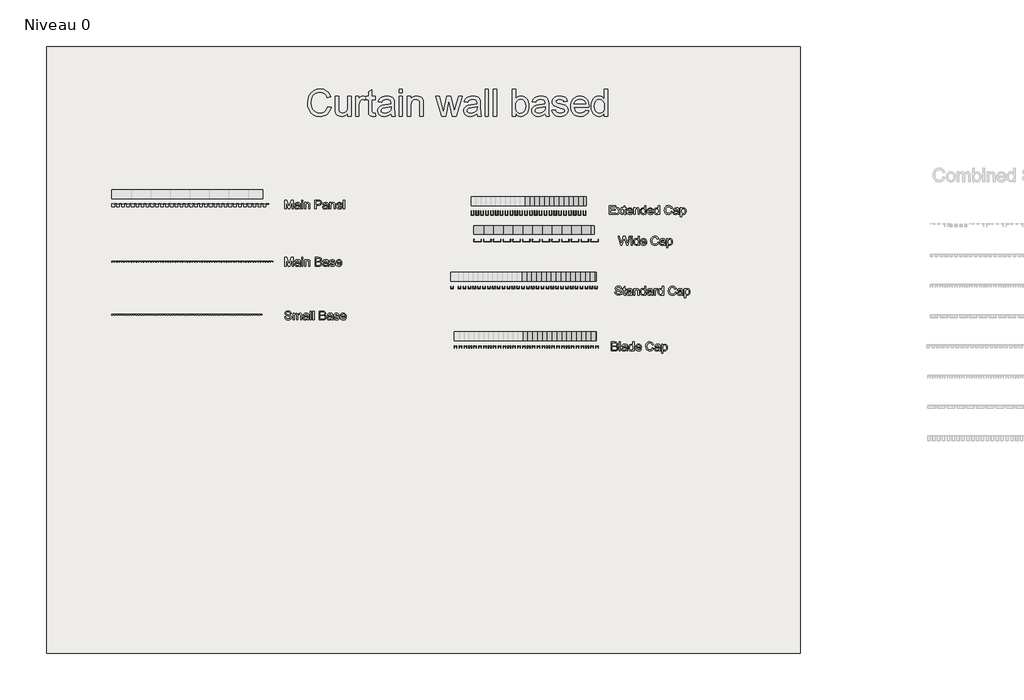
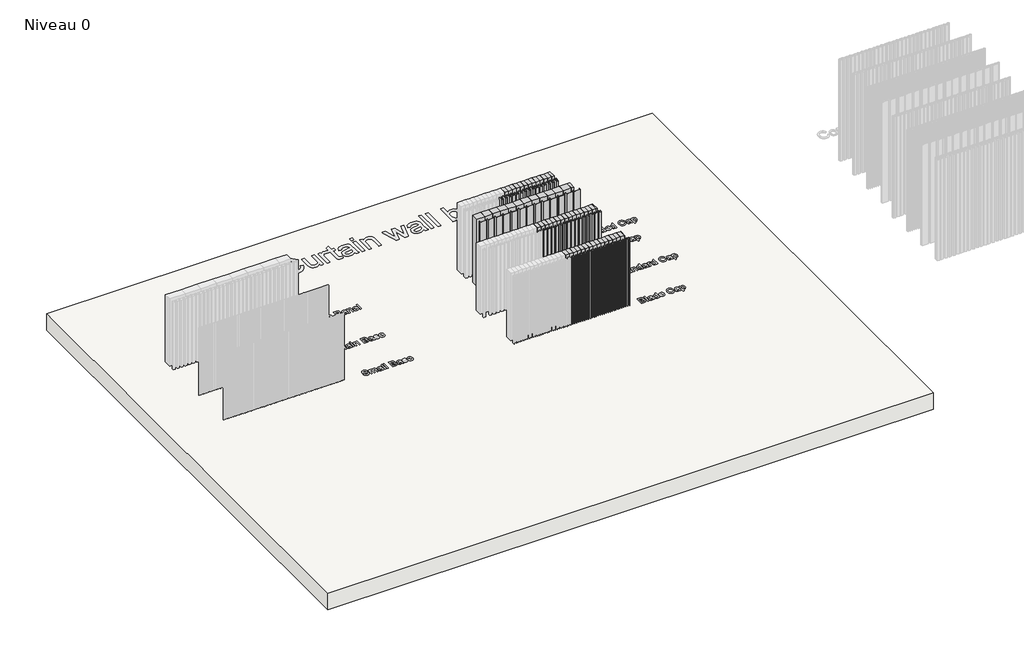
# One storey, part 2 of 25: 58 members, 58 plates, 1 slab.
"""IFC4 building model written with IfcOpenShell, lengths in millimetres."""

from ifc_helpers import new_model, si_unit, frame, origin, place, context, project, spatial, polyline, outline, extrude, transform, mapped, element, save
from components import meneau_rectangulaire_blade_cap_367a593c, meneau_rectangulaire_extended_cap_215ab1c6, meneau_rectangulaire_standard_cap_380d3cc9, meneau_rectangulaire_wide_cap_d8bd72df, meneau_rectangulaire_wide_cap_ee525d8e, vide_94d37051, vide_1ad6f549, vide_d45d4c5a, vide_6520434d, vide_a515af11, vide_65d77da9, vide_76a475b9

model = new_model("IFC4")

# Units and contexts
model_context = context("Model", 3, world=origin())
ifc_project = project(units=[si_unit("LENGTHUNIT", "METRE", prefix="MILLI")], contexts=[model_context])

# Site, building, storey
site = spatial("IfcSite", under=ifc_project)
building = spatial("IfcBuilding", under=site)
storey = spatial("IfcBuildingStorey", under=building, Name="Niveau 0", Elevation=0.0)

# Members
placement = place(None, origin())
meneau_rectangulaire_blade_cap_shape = meneau_rectangulaire_blade_cap_367a593c(model_context)
element("IfcMember", 1, ObjectType="Meneau rectangulaire : Blade Cap", at=placement, inside=storey, context=model_context, shape_type="MappedRepresentation", body=[
    mapped(meneau_rectangulaire_blade_cap_shape, transform((-7956.9983427, 3201.7575125, 0.0), x_axis=(1.0, 0.0, 0.0), y_axis=(0.0, -1.0, 0.0), z_axis=(0.0, 0.0, -1.0))),
])
element("IfcMember", 2, ObjectType="Meneau rectangulaire : Blade Cap", at=placement, inside=storey, context=model_context, shape_type="MappedRepresentation", body=[
    mapped(meneau_rectangulaire_blade_cap_shape, transform((-7901.9983427, 3201.7575125, 0.0), x_axis=(1.0, 0.0, 0.0), y_axis=(0.0, -1.0, 0.0), z_axis=(0.0, 0.0, -1.0))),
])
element("IfcMember", 3, ObjectType="Meneau rectangulaire : Blade Cap", at=placement, inside=storey, context=model_context, shape_type="MappedRepresentation", body=[
    mapped(meneau_rectangulaire_blade_cap_shape, transform((-7846.9983427, 3201.7575125, 0.0), x_axis=(1.0, 0.0, 0.0), y_axis=(0.0, -1.0, 0.0), z_axis=(0.0, 0.0, -1.0))),
])
element("IfcMember", 4, ObjectType="Meneau rectangulaire : Blade Cap", at=placement, inside=storey, context=model_context, shape_type="MappedRepresentation", body=[
    mapped(meneau_rectangulaire_blade_cap_shape, transform((-7791.9983427, 3201.7575125, 0.0), x_axis=(1.0, 0.0, 0.0), y_axis=(0.0, -1.0, 0.0), z_axis=(0.0, 0.0, -1.0))),
])
element("IfcMember", 5, ObjectType="Meneau rectangulaire : Blade Cap", at=placement, inside=storey, context=model_context, shape_type="MappedRepresentation", body=[
    mapped(meneau_rectangulaire_blade_cap_shape, transform((-7736.9983427, 3201.7575125, 0.0), x_axis=(1.0, 0.0, 0.0), y_axis=(0.0, -1.0, 0.0), z_axis=(0.0, 0.0, -1.0))),
])
element("IfcMember", 6, ObjectType="Meneau rectangulaire : Blade Cap", at=placement, inside=storey, context=model_context, shape_type="MappedRepresentation", body=[
    mapped(meneau_rectangulaire_blade_cap_shape, transform((-7681.9983427, 3201.7575125, 0.0), x_axis=(1.0, 0.0, 0.0), y_axis=(0.0, -1.0, 0.0), z_axis=(0.0, 0.0, -1.0))),
])
element("IfcMember", 7, ObjectType="Meneau rectangulaire : Blade Cap", at=placement, inside=storey, context=model_context, shape_type="MappedRepresentation", body=[
    mapped(meneau_rectangulaire_blade_cap_shape, transform((-7626.9983427, 3201.7575125, 0.0), x_axis=(1.0, 0.0, 0.0), y_axis=(0.0, -1.0, 0.0), z_axis=(0.0, 0.0, -1.0))),
])
element("IfcMember", 8, ObjectType="Meneau rectangulaire : Blade Cap", at=placement, inside=storey, context=model_context, shape_type="MappedRepresentation", body=[
    mapped(meneau_rectangulaire_blade_cap_shape, transform((-7571.9983427, 3201.7575125, 0.0), x_axis=(1.0, 0.0, 0.0), y_axis=(0.0, -1.0, 0.0), z_axis=(0.0, 0.0, -1.0))),
])
element("IfcMember", 9, ObjectType="Meneau rectangulaire : Blade Cap", at=placement, inside=storey, context=model_context, shape_type="MappedRepresentation", body=[
    mapped(meneau_rectangulaire_blade_cap_shape, transform((-7516.9983427, 3201.7575125, 0.0), x_axis=(1.0, 0.0, 0.0), y_axis=(0.0, -1.0, 0.0), z_axis=(0.0, 0.0, -1.0))),
])
element("IfcMember", 10, ObjectType="Meneau rectangulaire : Blade Cap", at=placement, inside=storey, context=model_context, shape_type="MappedRepresentation", body=[
    mapped(meneau_rectangulaire_blade_cap_shape, transform((-7461.9983427, 3201.7575125, 0.0), x_axis=(1.0, 0.0, 0.0), y_axis=(0.0, -1.0, 0.0), z_axis=(0.0, 0.0, -1.0))),
])
element("IfcMember", 11, ObjectType="Meneau rectangulaire : Blade Cap", at=placement, inside=storey, context=model_context, shape_type="MappedRepresentation", body=[
    mapped(meneau_rectangulaire_blade_cap_shape, transform((-7406.9983427, 3201.7575125, 0.0), x_axis=(1.0, 0.0, 0.0), y_axis=(0.0, -1.0, 0.0), z_axis=(0.0, 0.0, -1.0))),
])
element("IfcMember", 12, ObjectType="Meneau rectangulaire : Blade Cap", at=placement, inside=storey, context=model_context, shape_type="MappedRepresentation", body=[
    mapped(meneau_rectangulaire_blade_cap_shape, transform((-7351.9983427, 3201.7575125, 0.0), x_axis=(1.0, 0.0, 0.0), y_axis=(0.0, -1.0, 0.0), z_axis=(0.0, 0.0, -1.0))),
])
element("IfcMember", 13, ObjectType="Meneau rectangulaire : Blade Cap", at=placement, inside=storey, context=model_context, shape_type="MappedRepresentation", body=[
    mapped(meneau_rectangulaire_blade_cap_shape, transform((-7296.9983427, 3201.7575125, 0.0), x_axis=(1.0, 0.0, 0.0), y_axis=(0.0, -1.0, 0.0), z_axis=(0.0, 0.0, -1.0))),
])
element("IfcMember", 14, ObjectType="Meneau rectangulaire : Blade Cap", at=placement, inside=storey, context=model_context, shape_type="MappedRepresentation", body=[
    mapped(meneau_rectangulaire_blade_cap_shape, transform((-7241.9983427, 3201.7575125, 0.0), x_axis=(1.0, 0.0, 0.0), y_axis=(0.0, -1.0, 0.0), z_axis=(0.0, 0.0, -1.0))),
])
element("IfcMember", 15, ObjectType="Meneau rectangulaire : Blade Cap", at=placement, inside=storey, context=model_context, shape_type="MappedRepresentation", body=[
    mapped(meneau_rectangulaire_blade_cap_shape, transform((-7186.9983427, 3201.7575125, 0.0), x_axis=(1.0, 0.0, 0.0), y_axis=(0.0, -1.0, 0.0), z_axis=(0.0, 0.0, -1.0))),
])
meneau_rectangulaire_extended_cap_shape = meneau_rectangulaire_extended_cap_215ab1c6(model_context)
element("IfcMember", 16, ObjectType="Meneau rectangulaire : Extended Cap", at=placement, inside=storey, context=model_context, shape_type="MappedRepresentation", body=[
    mapped(meneau_rectangulaire_extended_cap_shape, transform((-8098.6900016, 4724.3413951, 0.0), x_axis=(1.0, 0.0, 0.0), y_axis=(0.0, -1.0, 0.0), z_axis=(0.0, 0.0, -1.0))),
])
element("IfcMember", 17, ObjectType="Meneau rectangulaire : Extended Cap", at=placement, inside=storey, context=model_context, shape_type="MappedRepresentation", body=[
    mapped(meneau_rectangulaire_extended_cap_shape, transform((-8043.6900016, 4724.3413951, 0.0), x_axis=(1.0, 0.0, 0.0), y_axis=(0.0, -1.0, 0.0), z_axis=(0.0, 0.0, -1.0))),
])
element("IfcMember", 18, ObjectType="Meneau rectangulaire : Extended Cap", at=placement, inside=storey, context=model_context, shape_type="MappedRepresentation", body=[
    mapped(meneau_rectangulaire_extended_cap_shape, transform((-7988.6900016, 4724.3413951, 0.0), x_axis=(1.0, 0.0, 0.0), y_axis=(0.0, -1.0, 0.0), z_axis=(0.0, 0.0, -1.0))),
])
element("IfcMember", 19, ObjectType="Meneau rectangulaire : Extended Cap", at=placement, inside=storey, context=model_context, shape_type="MappedRepresentation", body=[
    mapped(meneau_rectangulaire_extended_cap_shape, transform((-7933.6900016, 4724.3413951, 0.0), x_axis=(1.0, 0.0, 0.0), y_axis=(0.0, -1.0, 0.0), z_axis=(0.0, 0.0, -1.0))),
])
element("IfcMember", 20, ObjectType="Meneau rectangulaire : Extended Cap", at=placement, inside=storey, context=model_context, shape_type="MappedRepresentation", body=[
    mapped(meneau_rectangulaire_extended_cap_shape, transform((-7878.6900016, 4724.3413951, 0.0), x_axis=(1.0, 0.0, 0.0), y_axis=(0.0, -1.0, 0.0), z_axis=(0.0, 0.0, -1.0))),
])
element("IfcMember", 21, ObjectType="Meneau rectangulaire : Extended Cap", at=placement, inside=storey, context=model_context, shape_type="MappedRepresentation", body=[
    mapped(meneau_rectangulaire_extended_cap_shape, transform((-7823.6900016, 4724.3413951, 0.0), x_axis=(1.0, 0.0, 0.0), y_axis=(0.0, -1.0, 0.0), z_axis=(0.0, 0.0, -1.0))),
])
element("IfcMember", 22, ObjectType="Meneau rectangulaire : Extended Cap", at=placement, inside=storey, context=model_context, shape_type="MappedRepresentation", body=[
    mapped(meneau_rectangulaire_extended_cap_shape, transform((-7768.6900016, 4724.3413951, 0.0), x_axis=(1.0, 0.0, 0.0), y_axis=(0.0, -1.0, 0.0), z_axis=(0.0, 0.0, -1.0))),
])
element("IfcMember", 23, ObjectType="Meneau rectangulaire : Extended Cap", at=placement, inside=storey, context=model_context, shape_type="MappedRepresentation", body=[
    mapped(meneau_rectangulaire_extended_cap_shape, transform((-7713.6900016, 4724.3413951, 0.0), x_axis=(1.0, 0.0, 0.0), y_axis=(0.0, -1.0, 0.0), z_axis=(0.0, 0.0, -1.0))),
])
element("IfcMember", 24, ObjectType="Meneau rectangulaire : Extended Cap", at=placement, inside=storey, context=model_context, shape_type="MappedRepresentation", body=[
    mapped(meneau_rectangulaire_extended_cap_shape, transform((-7658.6900016, 4724.3413951, 0.0), x_axis=(1.0, 0.0, 0.0), y_axis=(0.0, -1.0, 0.0), z_axis=(0.0, 0.0, -1.0))),
])
element("IfcMember", 25, ObjectType="Meneau rectangulaire : Extended Cap", at=placement, inside=storey, context=model_context, shape_type="MappedRepresentation", body=[
    mapped(meneau_rectangulaire_extended_cap_shape, transform((-7603.6900016, 4724.3413951, 0.0), x_axis=(1.0, 0.0, 0.0), y_axis=(0.0, -1.0, 0.0), z_axis=(0.0, 0.0, -1.0))),
])
element("IfcMember", 26, ObjectType="Meneau rectangulaire : Extended Cap", at=placement, inside=storey, context=model_context, shape_type="MappedRepresentation", body=[
    mapped(meneau_rectangulaire_extended_cap_shape, transform((-7548.6900016, 4724.3413951, 0.0), x_axis=(1.0, 0.0, 0.0), y_axis=(0.0, -1.0, 0.0), z_axis=(0.0, 0.0, -1.0))),
])
element("IfcMember", 27, ObjectType="Meneau rectangulaire : Extended Cap", at=placement, inside=storey, context=model_context, shape_type="MappedRepresentation", body=[
    mapped(meneau_rectangulaire_extended_cap_shape, transform((-7493.6900016, 4724.3413951, 0.0), x_axis=(1.0, 0.0, 0.0), y_axis=(0.0, -1.0, 0.0), z_axis=(0.0, 0.0, -1.0))),
])
element("IfcMember", 28, ObjectType="Meneau rectangulaire : Extended Cap", at=placement, inside=storey, context=model_context, shape_type="MappedRepresentation", body=[
    mapped(meneau_rectangulaire_extended_cap_shape, transform((-7438.6900016, 4724.3413951, 0.0), x_axis=(1.0, 0.0, 0.0), y_axis=(0.0, -1.0, 0.0), z_axis=(0.0, 0.0, -1.0))),
])
element("IfcMember", 29, ObjectType="Meneau rectangulaire : Extended Cap", at=placement, inside=storey, context=model_context, shape_type="MappedRepresentation", body=[
    mapped(meneau_rectangulaire_extended_cap_shape, transform((-7383.6900016, 4724.3413951, 0.0), x_axis=(1.0, 0.0, 0.0), y_axis=(0.0, -1.0, 0.0), z_axis=(0.0, 0.0, -1.0))),
])
element("IfcMember", 30, ObjectType="Meneau rectangulaire : Extended Cap", at=placement, inside=storey, context=model_context, shape_type="MappedRepresentation", body=[
    mapped(meneau_rectangulaire_extended_cap_shape, transform((-7328.6900016, 4724.3413951, 0.0), x_axis=(1.0, 0.0, 0.0), y_axis=(0.0, -1.0, 0.0), z_axis=(0.0, 0.0, -1.0))),
])
meneau_rectangulaire_standard_cap_shape = meneau_rectangulaire_standard_cap_380d3cc9(model_context)
element("IfcMember", 31, ObjectType="Meneau rectangulaire : Standard Cap", at=placement, inside=storey, context=model_context, shape_type="MappedRepresentation", body=[
    mapped(meneau_rectangulaire_standard_cap_shape, transform((-7966.9983427, 3872.9622137, 0.0), x_axis=(1.0, 0.0, 0.0), y_axis=(0.0, -1.0, 0.0), z_axis=(0.0, 0.0, -1.0))),
])
element("IfcMember", 32, ObjectType="Meneau rectangulaire : Standard Cap", at=placement, inside=storey, context=model_context, shape_type="MappedRepresentation", body=[
    mapped(meneau_rectangulaire_standard_cap_shape, transform((-7911.9983427, 3872.9622137, 0.0), x_axis=(1.0, 0.0, 0.0), y_axis=(0.0, -1.0, 0.0), z_axis=(0.0, 0.0, -1.0))),
])
element("IfcMember", 33, ObjectType="Meneau rectangulaire : Standard Cap", at=placement, inside=storey, context=model_context, shape_type="MappedRepresentation", body=[
    mapped(meneau_rectangulaire_standard_cap_shape, transform((-7856.9983427, 3872.9622137, 0.0), x_axis=(1.0, 0.0, 0.0), y_axis=(0.0, -1.0, 0.0), z_axis=(0.0, 0.0, -1.0))),
])
element("IfcMember", 34, ObjectType="Meneau rectangulaire : Standard Cap", at=placement, inside=storey, context=model_context, shape_type="MappedRepresentation", body=[
    mapped(meneau_rectangulaire_standard_cap_shape, transform((-7801.9983427, 3872.9622137, 0.0), x_axis=(1.0, 0.0, 0.0), y_axis=(0.0, -1.0, 0.0), z_axis=(0.0, 0.0, -1.0))),
])
element("IfcMember", 35, ObjectType="Meneau rectangulaire : Standard Cap", at=placement, inside=storey, context=model_context, shape_type="MappedRepresentation", body=[
    mapped(meneau_rectangulaire_standard_cap_shape, transform((-7746.9983427, 3872.9622137, 0.0), x_axis=(1.0, 0.0, 0.0), y_axis=(0.0, -1.0, 0.0), z_axis=(0.0, 0.0, -1.0))),
])
element("IfcMember", 36, ObjectType="Meneau rectangulaire : Standard Cap", at=placement, inside=storey, context=model_context, shape_type="MappedRepresentation", body=[
    mapped(meneau_rectangulaire_standard_cap_shape, transform((-7691.9983427, 3872.9622137, 0.0), x_axis=(1.0, 0.0, 0.0), y_axis=(0.0, -1.0, 0.0), z_axis=(0.0, 0.0, -1.0))),
])
element("IfcMember", 37, ObjectType="Meneau rectangulaire : Standard Cap", at=placement, inside=storey, context=model_context, shape_type="MappedRepresentation", body=[
    mapped(meneau_rectangulaire_standard_cap_shape, transform((-7636.9983427, 3872.9622137, 0.0), x_axis=(1.0, 0.0, 0.0), y_axis=(0.0, -1.0, 0.0), z_axis=(0.0, 0.0, -1.0))),
])
element("IfcMember", 38, ObjectType="Meneau rectangulaire : Standard Cap", at=placement, inside=storey, context=model_context, shape_type="MappedRepresentation", body=[
    mapped(meneau_rectangulaire_standard_cap_shape, transform((-7581.9983427, 3872.9622137, 0.0), x_axis=(1.0, 0.0, 0.0), y_axis=(0.0, -1.0, 0.0), z_axis=(0.0, 0.0, -1.0))),
])
element("IfcMember", 39, ObjectType="Meneau rectangulaire : Standard Cap", at=placement, inside=storey, context=model_context, shape_type="MappedRepresentation", body=[
    mapped(meneau_rectangulaire_standard_cap_shape, transform((-7526.9983427, 3872.9622137, 0.0), x_axis=(1.0, 0.0, 0.0), y_axis=(0.0, -1.0, 0.0), z_axis=(0.0, 0.0, -1.0))),
])
element("IfcMember", 40, ObjectType="Meneau rectangulaire : Standard Cap", at=placement, inside=storey, context=model_context, shape_type="MappedRepresentation", body=[
    mapped(meneau_rectangulaire_standard_cap_shape, transform((-7471.9983427, 3872.9622137, 0.0), x_axis=(1.0, 0.0, 0.0), y_axis=(0.0, -1.0, 0.0), z_axis=(0.0, 0.0, -1.0))),
])
element("IfcMember", 41, ObjectType="Meneau rectangulaire : Standard Cap", at=placement, inside=storey, context=model_context, shape_type="MappedRepresentation", body=[
    mapped(meneau_rectangulaire_standard_cap_shape, transform((-7416.9983427, 3872.9622137, 0.0), x_axis=(1.0, 0.0, 0.0), y_axis=(0.0, -1.0, 0.0), z_axis=(0.0, 0.0, -1.0))),
])
element("IfcMember", 42, ObjectType="Meneau rectangulaire : Standard Cap", at=placement, inside=storey, context=model_context, shape_type="MappedRepresentation", body=[
    mapped(meneau_rectangulaire_standard_cap_shape, transform((-7361.9983427, 3872.9622137, 0.0), x_axis=(1.0, 0.0, 0.0), y_axis=(0.0, -1.0, 0.0), z_axis=(0.0, 0.0, -1.0))),
])
element("IfcMember", 43, ObjectType="Meneau rectangulaire : Standard Cap", at=placement, inside=storey, context=model_context, shape_type="MappedRepresentation", body=[
    mapped(meneau_rectangulaire_standard_cap_shape, transform((-7306.9983427, 3872.9622137, 0.0), x_axis=(1.0, 0.0, 0.0), y_axis=(0.0, -1.0, 0.0), z_axis=(0.0, 0.0, -1.0))),
])
element("IfcMember", 44, ObjectType="Meneau rectangulaire : Standard Cap", at=placement, inside=storey, context=model_context, shape_type="MappedRepresentation", body=[
    mapped(meneau_rectangulaire_standard_cap_shape, transform((-7251.9983427, 3872.9622137, 0.0), x_axis=(1.0, 0.0, 0.0), y_axis=(0.0, -1.0, 0.0), z_axis=(0.0, 0.0, -1.0))),
])
element("IfcMember", 45, ObjectType="Meneau rectangulaire : Standard Cap", at=placement, inside=storey, context=model_context, shape_type="MappedRepresentation", body=[
    mapped(meneau_rectangulaire_standard_cap_shape, transform((-7196.9983427, 3872.9622137, 0.0), x_axis=(1.0, 0.0, 0.0), y_axis=(0.0, -1.0, 0.0), z_axis=(0.0, 0.0, -1.0))),
])
meneau_rectangulaire_wide_cap_shape = meneau_rectangulaire_wide_cap_d8bd72df(model_context)
element("IfcMember", 46, ObjectType="Meneau rectangulaire : Wide Cap", at=placement, inside=storey, context=model_context, shape_type="MappedRepresentation", body=[
    mapped(meneau_rectangulaire_wide_cap_shape, transform((-8451.9983423, 4401.7575125, 0.0), x_axis=(1.0, 0.0, 0.0), y_axis=(0.0, -1.0, 0.0), z_axis=(0.0, 0.0, -1.0))),
])
element("IfcMember", 47, ObjectType="Meneau rectangulaire : Wide Cap", at=placement, inside=storey, context=model_context, shape_type="MappedRepresentation", body=[
    mapped(meneau_rectangulaire_wide_cap_shape, transform((-8341.9983423, 4401.7575125, 0.0), x_axis=(1.0, 0.0, 0.0), y_axis=(0.0, -1.0, 0.0), z_axis=(0.0, 0.0, -1.0))),
])
element("IfcMember", 48, ObjectType="Meneau rectangulaire : Wide Cap", at=placement, inside=storey, context=model_context, shape_type="MappedRepresentation", body=[
    mapped(meneau_rectangulaire_wide_cap_shape, transform((-8231.9983423, 4401.7575125, 0.0), x_axis=(1.0, 0.0, 0.0), y_axis=(0.0, -1.0, 0.0), z_axis=(0.0, 0.0, -1.0))),
])
element("IfcMember", 49, ObjectType="Meneau rectangulaire : Wide Cap", at=placement, inside=storey, context=model_context, shape_type="MappedRepresentation", body=[
    mapped(meneau_rectangulaire_wide_cap_shape, transform((-8121.9983423, 4401.7575125, 0.0), x_axis=(1.0, 0.0, 0.0), y_axis=(0.0, -1.0, 0.0), z_axis=(0.0, 0.0, -1.0))),
])
element("IfcMember", 50, ObjectType="Meneau rectangulaire : Wide Cap", at=placement, inside=storey, context=model_context, shape_type="MappedRepresentation", body=[
    mapped(meneau_rectangulaire_wide_cap_shape, transform((-8011.9983423, 4401.7575125, 0.0), x_axis=(1.0, 0.0, 0.0), y_axis=(0.0, -1.0, 0.0), z_axis=(0.0, 0.0, -1.0))),
])
element("IfcMember", 51, ObjectType="Meneau rectangulaire : Wide Cap", at=placement, inside=storey, context=model_context, shape_type="MappedRepresentation", body=[
    mapped(meneau_rectangulaire_wide_cap_shape, transform((-7901.9983423, 4401.7575125, 0.0), x_axis=(1.0, 0.0, 0.0), y_axis=(0.0, -1.0, 0.0), z_axis=(0.0, 0.0, -1.0))),
])
element("IfcMember", 52, ObjectType="Meneau rectangulaire : Wide Cap", at=placement, inside=storey, context=model_context, shape_type="MappedRepresentation", body=[
    mapped(meneau_rectangulaire_wide_cap_shape, transform((-7791.9983423, 4401.7575125, 0.0), x_axis=(1.0, 0.0, 0.0), y_axis=(0.0, -1.0, 0.0), z_axis=(0.0, 0.0, -1.0))),
])
element("IfcMember", 53, ObjectType="Meneau rectangulaire : Wide Cap", at=placement, inside=storey, context=model_context, shape_type="MappedRepresentation", body=[
    mapped(meneau_rectangulaire_wide_cap_shape, transform((-7681.9983423, 4401.7575125, 0.0), x_axis=(1.0, 0.0, 0.0), y_axis=(0.0, -1.0, 0.0), z_axis=(0.0, 0.0, -1.0))),
])
element("IfcMember", 54, ObjectType="Meneau rectangulaire : Wide Cap", at=placement, inside=storey, context=model_context, shape_type="MappedRepresentation", body=[
    mapped(meneau_rectangulaire_wide_cap_shape, transform((-7571.9983423, 4401.7575125, 0.0), x_axis=(1.0, 0.0, 0.0), y_axis=(0.0, -1.0, 0.0), z_axis=(0.0, 0.0, -1.0))),
])
element("IfcMember", 55, ObjectType="Meneau rectangulaire : Wide Cap", at=placement, inside=storey, context=model_context, shape_type="MappedRepresentation", body=[
    mapped(meneau_rectangulaire_wide_cap_shape, transform((-7461.9983423, 4401.7575125, 0.0), x_axis=(1.0, 0.0, 0.0), y_axis=(0.0, -1.0, 0.0), z_axis=(0.0, 0.0, -1.0))),
])
element("IfcMember", 56, ObjectType="Meneau rectangulaire : Wide Cap", at=placement, inside=storey, context=model_context, shape_type="MappedRepresentation", body=[
    mapped(meneau_rectangulaire_wide_cap_shape, transform((-7351.9983423, 4401.7575125, 0.0), x_axis=(1.0, 0.0, 0.0), y_axis=(0.0, -1.0, 0.0), z_axis=(0.0, 0.0, -1.0))),
])
element("IfcMember", 57, ObjectType="Meneau rectangulaire : Wide Cap", at=placement, inside=storey, context=model_context, shape_type="MappedRepresentation", body=[
    mapped(meneau_rectangulaire_wide_cap_shape, transform((-7241.9983423, 4401.7575125, 0.0), x_axis=(1.0, 0.0, 0.0), y_axis=(0.0, -1.0, 0.0), z_axis=(0.0, 0.0, -1.0))),
])
meneau_rectangulaire_wide_cap_2_shape = meneau_rectangulaire_wide_cap_ee525d8e(model_context)
element("IfcMember", 58, ObjectType="Meneau rectangulaire : Wide Cap", at=placement, inside=storey, context=model_context, shape_type="MappedRepresentation", body=[
    mapped(meneau_rectangulaire_wide_cap_2_shape, transform((-8561.9983427, 4401.7575125, 1000.0), x_axis=(-1.0, 0.0, 0.0), y_axis=(0.0, -1.0, 0.0), z_axis=(0.0, 0.0, 1.0))),
])

# Plates
vide_shape = vide_94d37051(model_context)
element("IfcPlate", 59, ObjectType="Panneau système vide : Vide", at=placement, inside=storey, context=model_context, shape_type="MappedRepresentation", body=[
    mapped(vide_shape, transform((-7984.4983427, 3201.7575125, 0.0), x_axis=(1.0, 0.0, 0.0), y_axis=(0.0, 1.0, 0.0), z_axis=(0.0, 0.0, 1.0))),
])
element("IfcPlate", 60, ObjectType="Panneau système vide : Vide", at=placement, inside=storey, context=model_context, shape_type="MappedRepresentation", body=[
    mapped(vide_shape, transform((-7929.4983427, 3201.7575125, 0.0), x_axis=(1.0, 0.0, 0.0), y_axis=(0.0, 1.0, 0.0), z_axis=(0.0, 0.0, 1.0))),
])
element("IfcPlate", 61, ObjectType="Panneau système vide : Vide", at=placement, inside=storey, context=model_context, shape_type="MappedRepresentation", body=[
    mapped(vide_shape, transform((-7874.4983427, 3201.7575125, 0.0), x_axis=(1.0, 0.0, 0.0), y_axis=(0.0, 1.0, 0.0), z_axis=(0.0, 0.0, 1.0))),
])
element("IfcPlate", 62, ObjectType="Panneau système vide : Vide", at=placement, inside=storey, context=model_context, shape_type="MappedRepresentation", body=[
    mapped(vide_shape, transform((-7819.4983427, 3201.7575125, 0.0), x_axis=(1.0, 0.0, 0.0), y_axis=(0.0, 1.0, 0.0), z_axis=(0.0, 0.0, 1.0))),
])
element("IfcPlate", 63, ObjectType="Panneau système vide : Vide", at=placement, inside=storey, context=model_context, shape_type="MappedRepresentation", body=[
    mapped(vide_shape, transform((-7764.4983427, 3201.7575125, 0.0), x_axis=(1.0, 0.0, 0.0), y_axis=(0.0, 1.0, 0.0), z_axis=(0.0, 0.0, 1.0))),
])
element("IfcPlate", 64, ObjectType="Panneau système vide : Vide", at=placement, inside=storey, context=model_context, shape_type="MappedRepresentation", body=[
    mapped(vide_shape, transform((-7709.4983427, 3201.7575125, 0.0), x_axis=(1.0, 0.0, 0.0), y_axis=(0.0, 1.0, 0.0), z_axis=(0.0, 0.0, 1.0))),
])
element("IfcPlate", 65, ObjectType="Panneau système vide : Vide", at=placement, inside=storey, context=model_context, shape_type="MappedRepresentation", body=[
    mapped(vide_shape, transform((-7654.4983427, 3201.7575125, 0.0), x_axis=(1.0, 0.0, 0.0), y_axis=(0.0, 1.0, 0.0), z_axis=(0.0, 0.0, 1.0))),
])
element("IfcPlate", 66, ObjectType="Panneau système vide : Vide", at=placement, inside=storey, context=model_context, shape_type="MappedRepresentation", body=[
    mapped(vide_shape, transform((-7599.4983427, 3201.7575125, 0.0), x_axis=(1.0, 0.0, 0.0), y_axis=(0.0, 1.0, 0.0), z_axis=(0.0, 0.0, 1.0))),
])
element("IfcPlate", 67, ObjectType="Panneau système vide : Vide", at=placement, inside=storey, context=model_context, shape_type="MappedRepresentation", body=[
    mapped(vide_shape, transform((-7544.4983427, 3201.7575125, 0.0), x_axis=(1.0, 0.0, 0.0), y_axis=(0.0, 1.0, 0.0), z_axis=(0.0, 0.0, 1.0))),
])
element("IfcPlate", 68, ObjectType="Panneau système vide : Vide", at=placement, inside=storey, context=model_context, shape_type="MappedRepresentation", body=[
    mapped(vide_shape, transform((-7489.4983427, 3201.7575125, 0.0), x_axis=(1.0, 0.0, 0.0), y_axis=(0.0, 1.0, 0.0), z_axis=(0.0, 0.0, 1.0))),
])
element("IfcPlate", 69, ObjectType="Panneau système vide : Vide", at=placement, inside=storey, context=model_context, shape_type="MappedRepresentation", body=[
    mapped(vide_shape, transform((-7434.4983427, 3201.7575125, 0.0), x_axis=(1.0, 0.0, 0.0), y_axis=(0.0, 1.0, 0.0), z_axis=(0.0, 0.0, 1.0))),
])
element("IfcPlate", 70, ObjectType="Panneau système vide : Vide", at=placement, inside=storey, context=model_context, shape_type="MappedRepresentation", body=[
    mapped(vide_shape, transform((-7379.4983427, 3201.7575125, 0.0), x_axis=(1.0, 0.0, 0.0), y_axis=(0.0, 1.0, 0.0), z_axis=(0.0, 0.0, 1.0))),
])
element("IfcPlate", 71, ObjectType="Panneau système vide : Vide", at=placement, inside=storey, context=model_context, shape_type="MappedRepresentation", body=[
    mapped(vide_shape, transform((-7324.4983427, 3201.7575125, 0.0), x_axis=(1.0, 0.0, 0.0), y_axis=(0.0, 1.0, 0.0), z_axis=(0.0, 0.0, 1.0))),
])
element("IfcPlate", 72, ObjectType="Panneau système vide : Vide", at=placement, inside=storey, context=model_context, shape_type="MappedRepresentation", body=[
    mapped(vide_shape, transform((-7269.4983427, 3201.7575125, 0.0), x_axis=(1.0, 0.0, 0.0), y_axis=(0.0, 1.0, 0.0), z_axis=(0.0, 0.0, 1.0))),
])
element("IfcPlate", 73, ObjectType="Panneau système vide : Vide", at=placement, inside=storey, context=model_context, shape_type="MappedRepresentation", body=[
    mapped(vide_shape, transform((-7214.4983427, 3201.7575125, 0.0), x_axis=(1.0, 0.0, 0.0), y_axis=(0.0, 1.0, 0.0), z_axis=(0.0, 0.0, 1.0))),
])
element("IfcPlate", 74, ObjectType="Panneau système vide : Vide", at=placement, inside=storey, context=model_context, shape_type="MappedRepresentation", body=[
    mapped(vide_shape, transform((-7961.1900016, 4724.3413951, 0.0), x_axis=(1.0, 0.0, 0.0), y_axis=(0.0, 1.0, 0.0), z_axis=(0.0, 0.0, 1.0))),
])
element("IfcPlate", 75, ObjectType="Panneau système vide : Vide", at=placement, inside=storey, context=model_context, shape_type="MappedRepresentation", body=[
    mapped(vide_shape, transform((-7906.1900016, 4724.3413951, 0.0), x_axis=(1.0, 0.0, 0.0), y_axis=(0.0, 1.0, 0.0), z_axis=(0.0, 0.0, 1.0))),
])
element("IfcPlate", 76, ObjectType="Panneau système vide : Vide", at=placement, inside=storey, context=model_context, shape_type="MappedRepresentation", body=[
    mapped(vide_shape, transform((-7851.1900016, 4724.3413951, 0.0), x_axis=(1.0, 0.0, 0.0), y_axis=(0.0, 1.0, 0.0), z_axis=(0.0, 0.0, 1.0))),
])
element("IfcPlate", 77, ObjectType="Panneau système vide : Vide", at=placement, inside=storey, context=model_context, shape_type="MappedRepresentation", body=[
    mapped(vide_shape, transform((-7796.1900016, 4724.3413951, 0.0), x_axis=(1.0, 0.0, 0.0), y_axis=(0.0, 1.0, 0.0), z_axis=(0.0, 0.0, 1.0))),
])
element("IfcPlate", 78, ObjectType="Panneau système vide : Vide", at=placement, inside=storey, context=model_context, shape_type="MappedRepresentation", body=[
    mapped(vide_shape, transform((-7741.1900016, 4724.3413951, 0.0), x_axis=(1.0, 0.0, 0.0), y_axis=(0.0, 1.0, 0.0), z_axis=(0.0, 0.0, 1.0))),
])
element("IfcPlate", 79, ObjectType="Panneau système vide : Vide", at=placement, inside=storey, context=model_context, shape_type="MappedRepresentation", body=[
    mapped(vide_shape, transform((-7686.1900016, 4724.3413951, 0.0), x_axis=(1.0, 0.0, 0.0), y_axis=(0.0, 1.0, 0.0), z_axis=(0.0, 0.0, 1.0))),
])
element("IfcPlate", 80, ObjectType="Panneau système vide : Vide", at=placement, inside=storey, context=model_context, shape_type="MappedRepresentation", body=[
    mapped(vide_shape, transform((-7631.1900016, 4724.3413951, 0.0), x_axis=(1.0, 0.0, 0.0), y_axis=(0.0, 1.0, 0.0), z_axis=(0.0, 0.0, 1.0))),
])
element("IfcPlate", 81, ObjectType="Panneau système vide : Vide", at=placement, inside=storey, context=model_context, shape_type="MappedRepresentation", body=[
    mapped(vide_shape, transform((-7576.1900016, 4724.3413951, 0.0), x_axis=(1.0, 0.0, 0.0), y_axis=(0.0, 1.0, 0.0), z_axis=(0.0, 0.0, 1.0))),
])
element("IfcPlate", 82, ObjectType="Panneau système vide : Vide", at=placement, inside=storey, context=model_context, shape_type="MappedRepresentation", body=[
    mapped(vide_shape, transform((-7521.1900016, 4724.3413951, 0.0), x_axis=(1.0, 0.0, 0.0), y_axis=(0.0, 1.0, 0.0), z_axis=(0.0, 0.0, 1.0))),
])
element("IfcPlate", 83, ObjectType="Panneau système vide : Vide", at=placement, inside=storey, context=model_context, shape_type="MappedRepresentation", body=[
    mapped(vide_shape, transform((-7466.1900016, 4724.3413951, 0.0), x_axis=(1.0, 0.0, 0.0), y_axis=(0.0, 1.0, 0.0), z_axis=(0.0, 0.0, 1.0))),
])
element("IfcPlate", 84, ObjectType="Panneau système vide : Vide", at=placement, inside=storey, context=model_context, shape_type="MappedRepresentation", body=[
    mapped(vide_shape, transform((-7411.1900016, 4724.3413951, 0.0), x_axis=(1.0, 0.0, 0.0), y_axis=(0.0, 1.0, 0.0), z_axis=(0.0, 0.0, 1.0))),
])
element("IfcPlate", 85, ObjectType="Panneau système vide : Vide", at=placement, inside=storey, context=model_context, shape_type="MappedRepresentation", body=[
    mapped(vide_shape, transform((-7356.1900016, 4724.3413951, 0.0), x_axis=(1.0, 0.0, 0.0), y_axis=(0.0, 1.0, 0.0), z_axis=(0.0, 0.0, 1.0))),
])
element("IfcPlate", 86, ObjectType="Panneau système vide : Vide", at=placement, inside=storey, context=model_context, shape_type="MappedRepresentation", body=[
    mapped(vide_shape, transform((-7994.4983427, 3872.9622137, 0.0), x_axis=(1.0, 0.0, 0.0), y_axis=(0.0, 1.0, 0.0), z_axis=(0.0, 0.0, 1.0))),
])
element("IfcPlate", 87, ObjectType="Panneau système vide : Vide", at=placement, inside=storey, context=model_context, shape_type="MappedRepresentation", body=[
    mapped(vide_shape, transform((-7939.4983427, 3872.9622137, 0.0), x_axis=(1.0, 0.0, 0.0), y_axis=(0.0, 1.0, 0.0), z_axis=(0.0, 0.0, 1.0))),
])
element("IfcPlate", 88, ObjectType="Panneau système vide : Vide", at=placement, inside=storey, context=model_context, shape_type="MappedRepresentation", body=[
    mapped(vide_shape, transform((-7884.4983427, 3872.9622137, 0.0), x_axis=(1.0, 0.0, 0.0), y_axis=(0.0, 1.0, 0.0), z_axis=(0.0, 0.0, 1.0))),
])
element("IfcPlate", 89, ObjectType="Panneau système vide : Vide", at=placement, inside=storey, context=model_context, shape_type="MappedRepresentation", body=[
    mapped(vide_shape, transform((-7829.4983427, 3872.9622137, 0.0), x_axis=(1.0, 0.0, 0.0), y_axis=(0.0, 1.0, 0.0), z_axis=(0.0, 0.0, 1.0))),
])
element("IfcPlate", 90, ObjectType="Panneau système vide : Vide", at=placement, inside=storey, context=model_context, shape_type="MappedRepresentation", body=[
    mapped(vide_shape, transform((-7774.4983427, 3872.9622137, 0.0), x_axis=(1.0, 0.0, 0.0), y_axis=(0.0, 1.0, 0.0), z_axis=(0.0, 0.0, 1.0))),
])
element("IfcPlate", 91, ObjectType="Panneau système vide : Vide", at=placement, inside=storey, context=model_context, shape_type="MappedRepresentation", body=[
    mapped(vide_shape, transform((-7719.4983427, 3872.9622137, 0.0), x_axis=(1.0, 0.0, 0.0), y_axis=(0.0, 1.0, 0.0), z_axis=(0.0, 0.0, 1.0))),
])
element("IfcPlate", 92, ObjectType="Panneau système vide : Vide", at=placement, inside=storey, context=model_context, shape_type="MappedRepresentation", body=[
    mapped(vide_shape, transform((-7664.4983427, 3872.9622137, 0.0), x_axis=(1.0, 0.0, 0.0), y_axis=(0.0, 1.0, 0.0), z_axis=(0.0, 0.0, 1.0))),
])
element("IfcPlate", 93, ObjectType="Panneau système vide : Vide", at=placement, inside=storey, context=model_context, shape_type="MappedRepresentation", body=[
    mapped(vide_shape, transform((-7609.4983427, 3872.9622137, 0.0), x_axis=(1.0, 0.0, 0.0), y_axis=(0.0, 1.0, 0.0), z_axis=(0.0, 0.0, 1.0))),
])
element("IfcPlate", 94, ObjectType="Panneau système vide : Vide", at=placement, inside=storey, context=model_context, shape_type="MappedRepresentation", body=[
    mapped(vide_shape, transform((-7554.4983427, 3872.9622137, 0.0), x_axis=(1.0, 0.0, 0.0), y_axis=(0.0, 1.0, 0.0), z_axis=(0.0, 0.0, 1.0))),
])
element("IfcPlate", 95, ObjectType="Panneau système vide : Vide", at=placement, inside=storey, context=model_context, shape_type="MappedRepresentation", body=[
    mapped(vide_shape, transform((-7499.4983427, 3872.9622137, 0.0), x_axis=(1.0, 0.0, 0.0), y_axis=(0.0, 1.0, 0.0), z_axis=(0.0, 0.0, 1.0))),
])
element("IfcPlate", 96, ObjectType="Panneau système vide : Vide", at=placement, inside=storey, context=model_context, shape_type="MappedRepresentation", body=[
    mapped(vide_shape, transform((-7444.4983427, 3872.9622137, 0.0), x_axis=(1.0, 0.0, 0.0), y_axis=(0.0, 1.0, 0.0), z_axis=(0.0, 0.0, 1.0))),
])
element("IfcPlate", 97, ObjectType="Panneau système vide : Vide", at=placement, inside=storey, context=model_context, shape_type="MappedRepresentation", body=[
    mapped(vide_shape, transform((-7389.4983427, 3872.9622137, 0.0), x_axis=(1.0, 0.0, 0.0), y_axis=(0.0, 1.0, 0.0), z_axis=(0.0, 0.0, 1.0))),
])
element("IfcPlate", 98, ObjectType="Panneau système vide : Vide", at=placement, inside=storey, context=model_context, shape_type="MappedRepresentation", body=[
    mapped(vide_shape, transform((-7334.4983427, 3872.9622137, 0.0), x_axis=(1.0, 0.0, 0.0), y_axis=(0.0, 1.0, 0.0), z_axis=(0.0, 0.0, 1.0))),
])
element("IfcPlate", 99, ObjectType="Panneau système vide : Vide", at=placement, inside=storey, context=model_context, shape_type="MappedRepresentation", body=[
    mapped(vide_shape, transform((-7279.4983427, 3872.9622137, 0.0), x_axis=(1.0, 0.0, 0.0), y_axis=(0.0, 1.0, 0.0), z_axis=(0.0, 0.0, 1.0))),
])
element("IfcPlate", 100, ObjectType="Panneau système vide : Vide", at=placement, inside=storey, context=model_context, shape_type="MappedRepresentation", body=[
    mapped(vide_shape, transform((-7224.4983427, 3872.9622137, 0.0), x_axis=(1.0, 0.0, 0.0), y_axis=(0.0, 1.0, 0.0), z_axis=(0.0, 0.0, 1.0))),
])
vide_2_shape = vide_1ad6f549(model_context)
element("IfcPlate", 101, ObjectType="Panneau système vide : Vide", at=placement, inside=storey, context=model_context, shape_type="MappedRepresentation", body=[
    mapped(vide_2_shape, transform((-7311.1900018, 4724.3413951, 0.0), x_axis=(1.0, 0.0, 0.0), y_axis=(0.0, 1.0, 0.0), z_axis=(0.0, 0.0, 1.0))),
])
vide_3_shape = vide_d45d4c5a(model_context)
element("IfcPlate", 102, ObjectType="Panneau système vide : Vide", at=placement, inside=storey, context=model_context, shape_type="MappedRepresentation", body=[
    mapped(vide_3_shape, transform((-7184.4983428, 3201.7575125, 0.0), x_axis=(1.0, 0.0, 0.0), y_axis=(0.0, 1.0, 0.0), z_axis=(0.0, 0.0, 1.0))),
])
vide_4_shape = vide_6520434d(model_context)
element("IfcPlate", 103, ObjectType="Panneau système vide : Vide", at=placement, inside=storey, context=model_context, shape_type="MappedRepresentation", body=[
    mapped(vide_4_shape, transform((-7189.4983428, 3872.9622137, 0.0), x_axis=(1.0, 0.0, 0.0), y_axis=(0.0, 1.0, 0.0), z_axis=(0.0, 0.0, 1.0))),
])
vide_5_shape = vide_a515af11(model_context)
element("IfcPlate", 104, ObjectType="Panneau système vide : Vide", at=placement, inside=storey, context=model_context, shape_type="MappedRepresentation", body=[
    mapped(vide_5_shape, transform((-8506.9983425, 4401.7575125, 0.0), x_axis=(1.0, 0.0, 0.0), y_axis=(0.0, 1.0, 0.0), z_axis=(0.0, 0.0, 1.0))),
])
vide_6_shape = vide_65d77da9(model_context)
element("IfcPlate", 105, ObjectType="Panneau système vide : Vide", at=placement, inside=storey, context=model_context, shape_type="MappedRepresentation", body=[
    mapped(vide_6_shape, transform((-8396.9983423, 4401.7575125, 0.0), x_axis=(1.0, 0.0, 0.0), y_axis=(0.0, 1.0, 0.0), z_axis=(0.0, 0.0, 1.0))),
])
element("IfcPlate", 106, ObjectType="Panneau système vide : Vide", at=placement, inside=storey, context=model_context, shape_type="MappedRepresentation", body=[
    mapped(vide_6_shape, transform((-8286.9983423, 4401.7575125, 0.0), x_axis=(1.0, 0.0, 0.0), y_axis=(0.0, 1.0, 0.0), z_axis=(0.0, 0.0, 1.0))),
])
element("IfcPlate", 107, ObjectType="Panneau système vide : Vide", at=placement, inside=storey, context=model_context, shape_type="MappedRepresentation", body=[
    mapped(vide_6_shape, transform((-8176.9983423, 4401.7575125, 0.0), x_axis=(1.0, 0.0, 0.0), y_axis=(0.0, 1.0, 0.0), z_axis=(0.0, 0.0, 1.0))),
])
element("IfcPlate", 108, ObjectType="Panneau système vide : Vide", at=placement, inside=storey, context=model_context, shape_type="MappedRepresentation", body=[
    mapped(vide_6_shape, transform((-8066.9983423, 4401.7575125, 0.0), x_axis=(1.0, 0.0, 0.0), y_axis=(0.0, 1.0, 0.0), z_axis=(0.0, 0.0, 1.0))),
])
element("IfcPlate", 109, ObjectType="Panneau système vide : Vide", at=placement, inside=storey, context=model_context, shape_type="MappedRepresentation", body=[
    mapped(vide_6_shape, transform((-7956.9983423, 4401.7575125, 0.0), x_axis=(1.0, 0.0, 0.0), y_axis=(0.0, 1.0, 0.0), z_axis=(0.0, 0.0, 1.0))),
])
element("IfcPlate", 110, ObjectType="Panneau système vide : Vide", at=placement, inside=storey, context=model_context, shape_type="MappedRepresentation", body=[
    mapped(vide_6_shape, transform((-7846.9983423, 4401.7575125, 0.0), x_axis=(1.0, 0.0, 0.0), y_axis=(0.0, 1.0, 0.0), z_axis=(0.0, 0.0, 1.0))),
])
element("IfcPlate", 111, ObjectType="Panneau système vide : Vide", at=placement, inside=storey, context=model_context, shape_type="MappedRepresentation", body=[
    mapped(vide_6_shape, transform((-7736.9983423, 4401.7575125, 0.0), x_axis=(1.0, 0.0, 0.0), y_axis=(0.0, 1.0, 0.0), z_axis=(0.0, 0.0, 1.0))),
])
element("IfcPlate", 112, ObjectType="Panneau système vide : Vide", at=placement, inside=storey, context=model_context, shape_type="MappedRepresentation", body=[
    mapped(vide_6_shape, transform((-7626.9983423, 4401.7575125, 0.0), x_axis=(1.0, 0.0, 0.0), y_axis=(0.0, 1.0, 0.0), z_axis=(0.0, 0.0, 1.0))),
])
element("IfcPlate", 113, ObjectType="Panneau système vide : Vide", at=placement, inside=storey, context=model_context, shape_type="MappedRepresentation", body=[
    mapped(vide_6_shape, transform((-7516.9983423, 4401.7575125, 0.0), x_axis=(1.0, 0.0, 0.0), y_axis=(0.0, 1.0, 0.0), z_axis=(0.0, 0.0, 1.0))),
])
element("IfcPlate", 114, ObjectType="Panneau système vide : Vide", at=placement, inside=storey, context=model_context, shape_type="MappedRepresentation", body=[
    mapped(vide_6_shape, transform((-7406.9983423, 4401.7575125, 0.0), x_axis=(1.0, 0.0, 0.0), y_axis=(0.0, 1.0, 0.0), z_axis=(0.0, 0.0, 1.0))),
])
element("IfcPlate", 115, ObjectType="Panneau système vide : Vide", at=placement, inside=storey, context=model_context, shape_type="MappedRepresentation", body=[
    mapped(vide_6_shape, transform((-7296.9983423, 4401.7575125, 0.0), x_axis=(1.0, 0.0, 0.0), y_axis=(0.0, 1.0, 0.0), z_axis=(0.0, 0.0, 1.0))),
])
vide_7_shape = vide_76a475b9(model_context)
element("IfcPlate", 116, ObjectType="Panneau système vide : Vide", at=placement, inside=storey, context=model_context, shape_type="MappedRepresentation", body=[
    mapped(vide_7_shape, transform((-7221.9983425, 4401.7575125, 0.0), x_axis=(1.0, 0.0, 0.0), y_axis=(0.0, 1.0, 0.0), z_axis=(0.0, 0.0, 1.0))),
])

# Slab
element("IfcSlab", 117, ObjectType="Dalle en béton - 250 mm", at=placement, inside=storey, context=model_context, shape_type="SweptSolid", body=[
    extrude(outline(polyline([(-13381.2519441, 6570.5855038), (-4881.2519441, 6570.5855038), (-4881.2519441, -270.8744381), (-13381.2519441, -270.8744381), (-13381.2519441, 6570.5855038)])), frame((0.0, 0.0, -250.0), z_axis=(0.0, 0.0, 1.0), x_axis=(1.0, 0.0, 0.0)), (0.0, 0.0, 1.0), 250.0),
])

save(model, "model.ifc")
